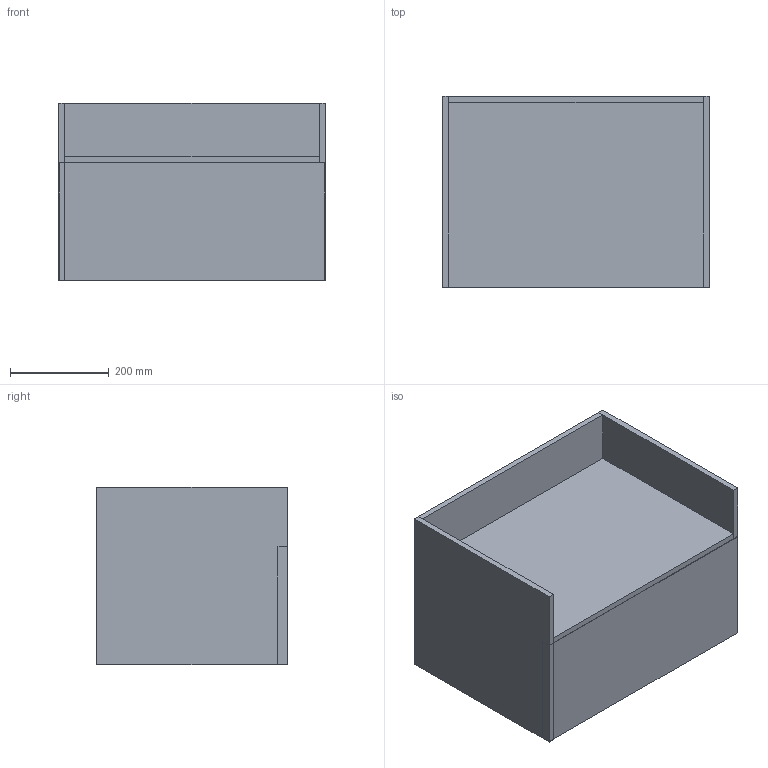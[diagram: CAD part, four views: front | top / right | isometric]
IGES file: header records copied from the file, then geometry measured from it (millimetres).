
Start section: Data from Parasolid IGES Translator 19.0.9, Copyright(c) 2006 Siemens PL M Software. All Rights Reserved.
Global section: file name: noorth-SI-H 36 D 38,8 W 55,2_8890.igs; native system: By Siemens PLM Incorporated; preprocessor: XPlus GENERIC/IGES 19.0.9; author: Noname; organization: Noname; date: 20200601.092531; units: metre
Bounding box: 540.01 x 386 x 360 mm (x, y, z)
Volume: 15372103.5 mm3; surface area: 2443821.1 mm2
Topology: 9 solids, 9 shells, 54 faces, 108 edges, 72 vertices
Faces by surface type: plane 54
